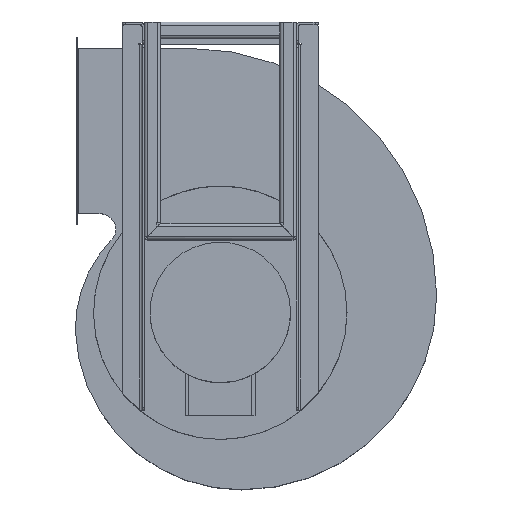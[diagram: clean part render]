
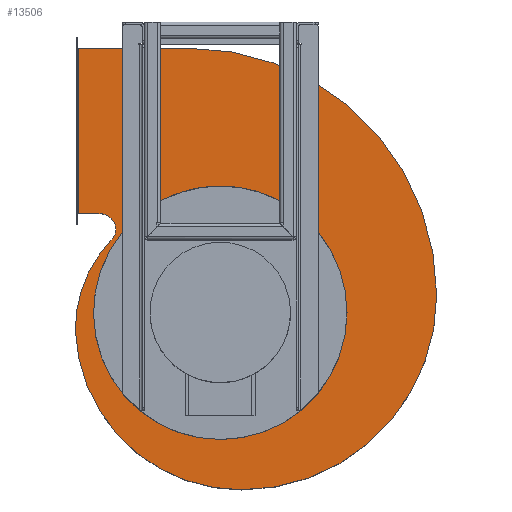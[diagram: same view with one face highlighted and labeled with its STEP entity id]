
A CAD part, top view. The second image highlights one B-rep face of the part: STEP entity #13506.
In plain terms, the highlighted planar face has unit normal (0, 0, 1).
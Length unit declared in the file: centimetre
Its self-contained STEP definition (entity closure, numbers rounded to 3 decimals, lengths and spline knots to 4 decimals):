
#261=CIRCLE('',#13903,23.3);
#263=CIRCLE('',#13906,30.08);
#265=CIRCLE('',#13909,35.33);
#267=CIRCLE('',#13912,44.84);
#277=CIRCLE('',#13927,2.85);
#391=CIRCLE('',#14177,23.);
#726=FACE_BOUND('',#2561,.T.);
#1070=PLANE('',#14266);
#1775=FACE_OUTER_BOUND('',#2560,.T.);
#2560=EDGE_LOOP('',(#12381,#12382,#12383,#12384,#12385,#12386,#12387,#12388));
#2561=EDGE_LOOP('',(#12389));
#3289=LINE('',#23986,#4408);
#3302=LINE('',#24018,#4421);
#3676=LINE('',#25432,#4795);
#4408=VECTOR('',#15677,20.2038);
#4421=VECTOR('',#15700,3.9538);
#4795=VECTOR('',#16726,30.);
#6260=VERTEX_POINT('',#23947);
#6261=VERTEX_POINT('',#23949);
#6264=VERTEX_POINT('',#23956);
#6266=VERTEX_POINT('',#23962);
#6268=VERTEX_POINT('',#23968);
#6275=VERTEX_POINT('',#23984);
#6288=VERTEX_POINT('',#24015);
#6289=VERTEX_POINT('',#24017);
#6550=VERTEX_POINT('',#24857);
#7977=EDGE_CURVE('',#6260,#6261,#261,.T.);
#7981=EDGE_CURVE('',#6264,#6260,#263,.T.);
#7984=EDGE_CURVE('',#6266,#6264,#265,.T.);
#7987=EDGE_CURVE('',#6268,#6266,#267,.T.);
#7995=EDGE_CURVE('',#6275,#6268,#3289,.T.);
#8010=EDGE_CURVE('',#6288,#6289,#3302,.T.);
#8023=EDGE_CURVE('',#6261,#6288,#277,.T.);
#8408=EDGE_CURVE('',#6550,#6550,#391,.T.);
#8545=EDGE_CURVE('',#6275,#6289,#3676,.T.);
#12381=ORIENTED_EDGE('',*,*,#8545,.T.);
#12382=ORIENTED_EDGE('',*,*,#8010,.F.);
#12383=ORIENTED_EDGE('',*,*,#8023,.F.);
#12384=ORIENTED_EDGE('',*,*,#7977,.F.);
#12385=ORIENTED_EDGE('',*,*,#7981,.F.);
#12386=ORIENTED_EDGE('',*,*,#7984,.F.);
#12387=ORIENTED_EDGE('',*,*,#7987,.F.);
#12388=ORIENTED_EDGE('',*,*,#7995,.F.);
#12389=ORIENTED_EDGE('',*,*,#8408,.T.);
#13506=ADVANCED_FACE('',(#1775,#726),#1070,.T.);
#13903=AXIS2_PLACEMENT_3D('',#23950,#15641,#15642);
#13906=AXIS2_PLACEMENT_3D('',#23958,#15649,#15650);
#13909=AXIS2_PLACEMENT_3D('',#23964,#15656,#15657);
#13912=AXIS2_PLACEMENT_3D('',#23970,#15663,#15664);
#13927=AXIS2_PLACEMENT_3D('',#24043,#15719,#15720);
#14177=AXIS2_PLACEMENT_3D('',#24858,#16482,#16483);
#14266=AXIS2_PLACEMENT_3D('',#25501,#16793,#16794);
#15641=DIRECTION('center_axis',(0.,0.,
-1.));
#15642=DIRECTION('ref_axis',(-0.724,0.69,0.));
#15649=DIRECTION('center_axis',(0.,0.,
-1.));
#15650=DIRECTION('ref_axis',(-0.999,-0.037,0.));
#15656=DIRECTION('center_axis',(0.,0.,
-1.));
#15657=DIRECTION('ref_axis',(-0.003,-1.,0.));
#15663=DIRECTION('center_axis',(0.,0.,
-1.));
#15664=DIRECTION('ref_axis',(1.,0.001,0.));
#15677=DIRECTION('',(1.,0.,0.));
#15700=DIRECTION('',(-1.,0.,0.));
#15719=DIRECTION('center_axis',(0.,0.,
1.));
#15720=DIRECTION('ref_axis',(-0.684,0.729,0.));
#16482=DIRECTION('center_axis',(0.,0.,
-1.));
#16483=DIRECTION('ref_axis',(-1.,0.,0.));
#16726=DIRECTION('',(0.,-1.,0.));
#16793=DIRECTION('center_axis',(0.,0.,
1.));
#16794=DIRECTION('ref_axis',(1.,0.,0.));
#23947=CARTESIAN_POINT('',(-32.1849,-7.4425,11.1322));
#23949=CARTESIAN_POINT('',(-25.7551,8.7792,11.1322));
#23950=CARTESIAN_POINT('Origin',(-8.8854,-7.2926,11.1322));
#23956=CARTESIAN_POINT('',(-2.039,-36.4125,11.1322));
#23958=CARTESIAN_POINT('Origin',(-2.1254,-6.3326,11.1322));
#23962=CARTESIAN_POINT('',(33.3846,-1.1061,11.1322));
#23964=CARTESIAN_POINT('Origin',(-1.9454,-1.0826,11.1322));
#23968=CARTESIAN_POINT('',(-11.4554,43.7074,11.1322));
#23970=CARTESIAN_POINT('Origin',(-11.4554,-1.1326,11.1322));
#23984=CARTESIAN_POINT('',(-31.6592,43.7074,11.1322));
#23986=CARTESIAN_POINT('',(-11.4554,43.7074,11.1322));
#24015=CARTESIAN_POINT('',(-27.7054,13.7074,11.1322));
#24017=CARTESIAN_POINT('',(-31.6592,13.7074,11.1322));
#24018=CARTESIAN_POINT('',(-31.8854,13.7074,11.1322));
#24043=CARTESIAN_POINT('Origin',(-27.7054,10.8574,11.1322));
#24857=CARTESIAN_POINT('',(17.1146,-4.2926,11.1322));
#24858=CARTESIAN_POINT('Origin',(-5.8854,-4.2926,11.1322));
#25432=CARTESIAN_POINT('',(-31.6592,36.2074,11.1322));
#25501=CARTESIAN_POINT('Origin',(-33.3854,28.7074,11.1322));
